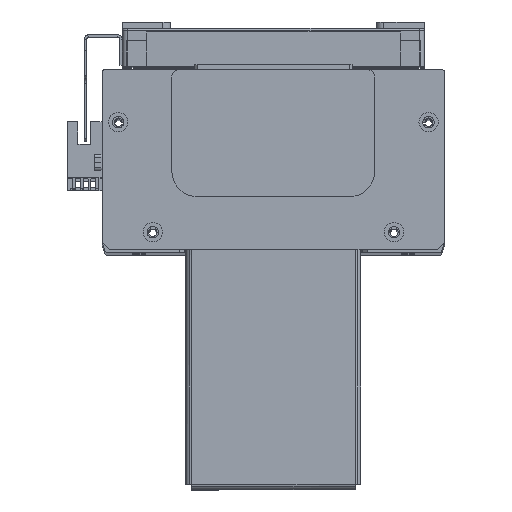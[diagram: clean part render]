
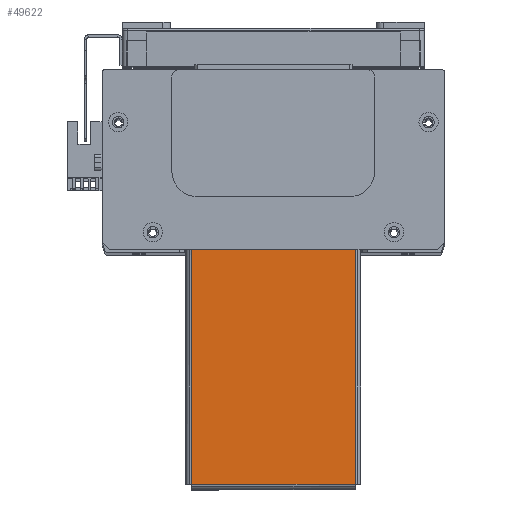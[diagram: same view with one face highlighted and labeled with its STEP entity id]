
A CAD part, top view. The second image highlights one B-rep face of the part: STEP entity #49622.
In plain terms, the highlighted planar face has unit normal (0, 0, 1) as drawn and (0, -1, 0) by its records, which use the part's own axes.
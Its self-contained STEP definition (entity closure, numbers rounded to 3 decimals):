
#2976 = LINE ( 'NONE', #50915, #3003 ) ;
#3003 = VECTOR ( 'NONE', #50893, 1000. ) ;
#3060 = LINE ( 'NONE', #51035, #3081 ) ;
#3068 = LINE ( 'NONE', #51085, #3069 ) ;
#3069 = VECTOR ( 'NONE', #51092, 1000. ) ;
#3081 = VECTOR ( 'NONE', #51024, 1000. ) ;
#3153 = LINE ( 'NONE', #51100, #3159 ) ;
#3159 = VECTOR ( 'NONE', #51055, 1000. ) ;
#5158 = EDGE_CURVE ( 'NONE', #27221, #27279, #2976, .T. ) ;
#5201 = EDGE_CURVE ( 'NONE', #27301, #27221, #3060, .T. ) ;
#5211 = EDGE_CURVE ( 'NONE', #27271, #27279, #3068, .T. ) ;
#5219 = EDGE_CURVE ( 'NONE', #27271, #27301, #3153, .T. ) ;
#19623 = FACE_OUTER_BOUND ( 'NONE', #29414, .T. ) ;
#22845 = PLANE ( 'NONE',  #58732 ) ;
#22880 = CARTESIAN_POINT ( 'NONE',  ( 0., -1.5, 0. ) ) ;
#22882 = DIRECTION ( 'NONE',  ( 0., 0., 1. ) ) ;
#22884 = DIRECTION ( 'NONE',  ( 0., 1., 0. ) ) ;
#25078 = ORIENTED_EDGE ( 'NONE', *, *, #5201, .T. ) ;
#25105 = ORIENTED_EDGE ( 'NONE', *, *, #5219, .T. ) ;
#25165 = ORIENTED_EDGE ( 'NONE', *, *, #5158, .T. ) ;
#25172 = ORIENTED_EDGE ( 'NONE', *, *, #5211, .F. ) ;
#27221 = VERTEX_POINT ( 'NONE', #38635 ) ;
#27271 = VERTEX_POINT ( 'NONE', #38703 ) ;
#27279 = VERTEX_POINT ( 'NONE', #38704 ) ;
#27301 = VERTEX_POINT ( 'NONE', #38712 ) ;
#29414 = EDGE_LOOP ( 'NONE', ( #25165, #25172, #25105, #25078 ) ) ;
#38635 = CARTESIAN_POINT ( 'NONE',  ( -94.763, -1.5, -32.263 ) ) ;
#38703 = CARTESIAN_POINT ( 'NONE',  ( -2., -1.5, 32.263 ) ) ;
#38704 = CARTESIAN_POINT ( 'NONE',  ( -2., -1.5, -32.263 ) ) ;
#38712 = CARTESIAN_POINT ( 'NONE',  ( -94.763, -1.5, 32.263 ) ) ;
#49622 = ADVANCED_FACE ( 'NONE', ( #19623 ), #22845, .F. ) ;
#50893 = DIRECTION ( 'NONE',  ( 1., 0., 0. ) ) ;
#50915 = CARTESIAN_POINT ( 'NONE',  ( -94.793, -1.5, -32.263 ) ) ;
#51024 = DIRECTION ( 'NONE',  ( 0., 0., -1. ) ) ;
#51035 = CARTESIAN_POINT ( 'NONE',  ( -94.763, -1.5, 32.293 ) ) ;
#51055 = DIRECTION ( 'NONE',  ( -1., 0., 0. ) ) ;
#51085 = CARTESIAN_POINT ( 'NONE',  ( -2., -1.5, 34.5 ) ) ;
#51092 = DIRECTION ( 'NONE',  ( 0., 0., -1. ) ) ;
#51100 = CARTESIAN_POINT ( 'NONE',  ( 94.793, -1.5, 32.263 ) ) ;
#58732 = AXIS2_PLACEMENT_3D ( 'NONE', #22880, #22884, #22882 ) ;
